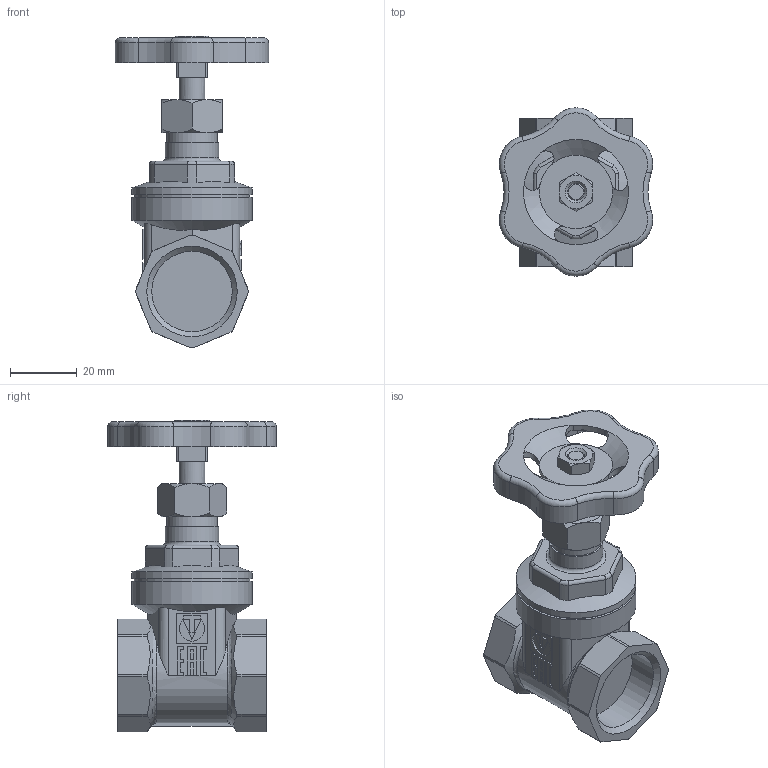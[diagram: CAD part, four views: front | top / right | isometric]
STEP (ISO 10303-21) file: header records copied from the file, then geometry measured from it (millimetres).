
FILE_DESCRIPTION(('STEP AP203'), '1');
FILE_NAME('VT.012.G.05', '', ('UNSPECIFIED'), ('UNSPECIFIED'), 'C3D Converter', 'C3D Toolkit', '');
FILE_SCHEMA(('CONFIG_CONTROL_DESIGN'));
Length unit declared in the file: millimetre
Products named in the file (1): ВР.491212.005.000 СБ
Bounding box: 45.98 x 50.46 x 93.4 mm (x, y, z)
Volume: 53094.3 mm3; surface area: 18529.4 mm2
Topology: 1 solids, 1 shells, 511 faces, 1362 edges, 869 vertices
Faces by surface type: plane 216, extrusion 113, cylinder 109, cone 37, torus 36
Full cylindrical faces by diameter (mm): 7.7 x1, 8 x1, 15 x1, 16 x1, 24.118 x2, 34.5 x1, 34.6 x1, 36 x2
Entity records: 19969 total; most frequent: CARTESIAN_POINT 7811, ORIENTED_EDGE 2672, DIRECTION 2171, EDGE_CURVE 1336, VERTEX_POINT 867, VECTOR 795, AXIS2_PLACEMENT_3D 688, LINE 682
